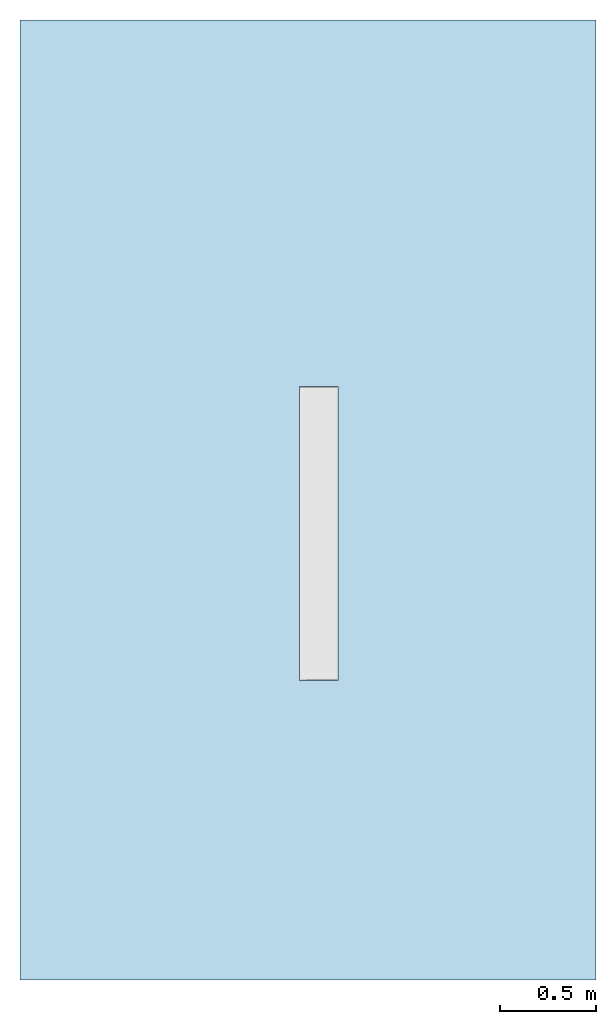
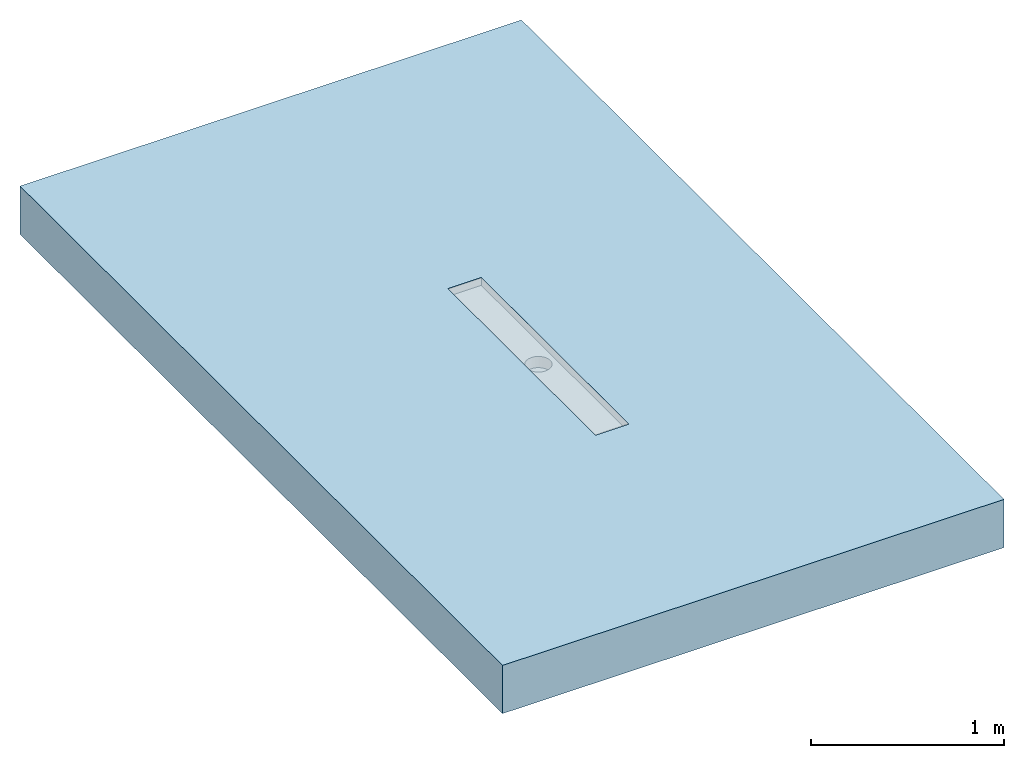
# One storey, incomplete: 1 slab, 1 opening.
"""IFC2X3 building model written with IfcOpenShell, lengths in millimetres."""

from ifc_helpers import new_model, entity, si_unit, converted_unit, derived_unit, direction, frame, frame_2d, origin, place, context, subcontext, project, spatial, rectangle, extrude, faceted_brep, material, layer, layer_set, layer_usage, element, save


model = new_model("IFC2X3")

# Units and contexts
model_context = context("Model", 3, precision=1e-05, world=origin(), true_north=direction((2.0, 6.12303176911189e-17, 1.0)))
context_of_model = context(None, 3, precision=1e-05, world=origin(), true_north=direction((2.0, 6.12303176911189e-17, 1.0)))
body_context = subcontext(model_context, "Body", "Model", "MODEL_VIEW")
ifc_project = project(units=[si_unit("LENGTHUNIT", "METRE", prefix="MILLI"), converted_unit("AREAUNIT", "SQUARE FOOT", entity("IfcRatioMeasure", 0.09290304), si_unit("AREAUNIT", "SQUARE_METRE"), dimensions=[2, 0, 0, 0, 0, 0, 0]), converted_unit("VOLUMEUNIT", "CUBIC FOOT", entity("IfcRatioMeasure", 0.028316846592), si_unit("VOLUMEUNIT", "CUBIC_METRE"), dimensions=[3, 0, 0, 0, 0, 0, 0]), converted_unit("PLANEANGLEUNIT", "DEGREE", entity("IfcRatioMeasure", 0.0174532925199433), si_unit("PLANEANGLEUNIT", "RADIAN"), dimensions=[0, 0, 0, 0, 0, 0, 0]), si_unit("MASSUNIT", "GRAM", prefix="KILO"), si_unit("TIMEUNIT", "SECOND"), si_unit("THERMODYNAMICTEMPERATUREUNIT", "KELVIN"), derived_unit("THERMALTRANSMITTANCEUNIT", [(si_unit("MASSUNIT", "GRAM", prefix="KILO"), 1), (si_unit("THERMODYNAMICTEMPERATUREUNIT", "KELVIN"), -1), (si_unit("TIMEUNIT", "SECOND"), -3)]), derived_unit("VOLUMETRICFLOWRATEUNIT", [(si_unit("LENGTHUNIT", "METRE"), 3), (si_unit("TIMEUNIT", "SECOND"), -1)]), si_unit("POWERUNIT", "WATT")], contexts=[model_context, context_of_model])

# Site, building, storey
site_placement = place(None, origin())
site = spatial("IfcSite", under=ifc_project, at=site_placement, Name="Default", CompositionType="ELEMENT")
building_placement = place(site_placement, origin())
building = spatial("IfcBuilding", under=site, at=building_placement, CompositionType="ELEMENT")
storey_placement = place(building_placement, origin())
storey = spatial("IfcBuildingStorey", under=building, at=storey_placement, Name="Level 1", CompositionType="ELEMENT", Elevation=0.0)

# Slab, opening
ifc_material = material(Name="Default Floor")
ifc_layer = layer(ifc_material, 304.8)
ifc_layer_set = layer_set([ifc_layer], Name="Floor:Generic - 12\"")
ifc_layer_usage = layer_usage(ifc_layer_set, "AXIS3", "POSITIVE", 0.0)
slab_placement = place(storey_placement, frame((-2592.42688678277, 381.838531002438, -304.8)))
slab = element("IfcSlab", 1, at=slab_placement, inside=storey, material=ifc_layer_usage, Name="Floor:Generic - 12\"", ObjectType="Floor:Generic - 12\"", PredefinedType="FLOOR", context=body_context, shape_type="SweptSolid", body=[
    extrude(rectangle(XDim=5000.0, YDim=3000.0, at=frame_2d((0.0, 0.0), x_axis=(0.0, -1.0))), frame((1500.0, 2500.0, 304.8), z_axis=(0.0, 0.0, -1.0), x_axis=(-1.0, 0.0, 0.0)), (0.0, 0.0, 1.0), 304.8),
])
opening_placement = place(slab_placement, frame((1456.83690377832, 1559.84639290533, 184.151793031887)))
element("IfcOpeningElement", 2, at=opening_placement, cuts=slab, ObjectType="Recess", context=body_context, shape_type="Brep", body=[
    faceted_brep([(200.0, 0.0, 70.6482069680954), (200.0, 0.0, 120.648206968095), (0.0, 0.0, 70.648206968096), (0.0, 0.0, 120.648206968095), (0.0, 1530.0, 70.648206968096), (0.0, 1530.0, 120.648206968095), (200.0, 1530.0, 120.648206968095), (200.0, 1530.0, 70.6482069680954), (64.4999999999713, 703.512196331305, 70.6482069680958), (81.6238477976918, 696.419266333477, 70.6482069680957), (49.7954185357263, 714.795418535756, 70.6482069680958), (100.0, 694.0, 70.6482069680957), (29.0, 765.0, 70.6482069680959), (31.4192663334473, 746.623847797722, 70.6482069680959), (38.5121963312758, 729.5, 70.6482069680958), (118.37615220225, 696.419266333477, 70.6482069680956), (135.499999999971, 703.512196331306, 70.6482069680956), (150.204581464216, 714.795418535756, 70.6482069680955), (161.487803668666, 729.500000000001, 70.6482069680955), (168.580733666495, 746.623847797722, 70.6482069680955), (171.0, 765.0, 70.6482069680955), (38.5121963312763, 800.500000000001, 70.6482069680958), (31.4192663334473, 783.37615220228, 70.6482069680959), (49.7954185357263, 815.204581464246, 70.6482069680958), (64.4999999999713, 826.487803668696, 70.6482069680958), (81.6238477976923, 833.580733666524, 70.6482069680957), (100.0, 836.0, 70.6482069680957), (168.580733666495, 783.376152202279, 70.6482069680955), (161.487803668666, 800.5, 70.6482069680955), (135.499999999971, 826.487803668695, 70.6482069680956), (118.37615220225, 833.580733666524, 70.6482069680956), (150.204581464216, 815.204581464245, 70.6482069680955), (81.6238477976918, 696.419266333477, 0.0), (64.4999999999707, 703.512196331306, 0.0), (49.7954185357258, 714.795418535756, 0.0), (100.0, 694.0, 0.0), (31.4192663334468, 783.37615220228, 0.0), (38.5121963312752, 729.500000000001, 0.0), (31.4192663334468, 746.623847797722, 0.0), (81.6238477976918, 833.580733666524, 0.0), (118.37615220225, 696.419266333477, 0.0), (150.204581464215, 714.795418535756, 0.0), (135.49999999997, 703.512196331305, 0.0), (168.580733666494, 746.623847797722, 0.0), (161.487803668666, 729.500000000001, 0.0), (161.487803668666, 800.5, 0.0), (29.0, 765.0, 0.0), (38.5121963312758, 800.5, 0.0), (49.7954185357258, 815.204581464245, 0.0), (100.0, 836.0, 0.0), (64.4999999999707, 826.487803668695, 0.0), (135.499999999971, 826.487803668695, 0.0), (168.580733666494, 783.376152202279, 0.0), (171.0, 765.0, 0.0), (150.204581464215, 815.204581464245, 0.0), (118.37615220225, 833.580733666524, 0.0)], [[[0, 1, 2]], [[3, 2, 1]], [[4, 5, 6]], [[6, 7, 4]], [[3, 1, 5]], [[6, 5, 1]], [[2, 3, 4]], [[5, 4, 3]], [[1, 0, 6]], [[7, 6, 0]], [[2, 8, 9]], [[8, 2, 10]], [[2, 9, 11]], [[12, 13, 2]], [[14, 10, 2]], [[13, 14, 2]], [[2, 4, 12]], [[0, 11, 15]], [[11, 0, 2]], [[0, 15, 16]], [[16, 17, 0]], [[18, 19, 0]], [[17, 18, 0]], [[0, 19, 20]], [[21, 22, 4]], [[23, 21, 4]], [[24, 4, 25]], [[4, 24, 23]], [[26, 25, 4]], [[4, 7, 26]], [[22, 12, 4]], [[27, 28, 7]], [[20, 27, 7]], [[29, 30, 7]], [[31, 7, 28]], [[7, 31, 29]], [[30, 26, 7]], [[20, 7, 0]], [[32, 33, 34]], [[35, 32, 34]], [[36, 37, 38]], [[39, 35, 34]], [[37, 39, 34]], [[40, 41, 42]], [[39, 40, 35]], [[41, 43, 44]], [[45, 41, 40]], [[45, 43, 41]], [[36, 38, 46]], [[36, 47, 48]], [[48, 39, 37]], [[49, 40, 39]], [[39, 48, 50]], [[49, 51, 40]], [[43, 52, 53]], [[45, 52, 43]], [[45, 51, 54]], [[40, 51, 45]], [[55, 51, 49]], [[36, 48, 37]], [[28, 45, 54]], [[29, 51, 55]], [[54, 51, 31]], [[30, 55, 49]], [[20, 52, 27]], [[52, 20, 53]], [[27, 52, 28]], [[52, 45, 28]], [[54, 31, 28]], [[29, 31, 51]], [[55, 30, 29]], [[49, 26, 30]], [[25, 39, 50]], [[48, 24, 50]], [[21, 47, 36]], [[48, 47, 23]], [[22, 36, 46]], [[39, 25, 26]], [[50, 24, 25]], [[48, 23, 24]], [[47, 21, 23]], [[22, 21, 36]], [[46, 12, 22]], [[39, 26, 49]], [[38, 13, 46]], [[37, 14, 38]], [[32, 35, 9]], [[34, 10, 37]], [[38, 14, 13]], [[13, 12, 46]], [[8, 33, 9]], [[8, 10, 34]], [[33, 32, 9]], [[10, 14, 37]], [[34, 33, 8]], [[35, 11, 9]], [[15, 40, 42]], [[41, 16, 42]], [[18, 44, 43]], [[41, 44, 17]], [[19, 43, 53]], [[40, 15, 11]], [[42, 16, 15]], [[41, 17, 16]], [[44, 18, 17]], [[19, 18, 43]], [[53, 20, 19]], [[40, 11, 35]]]),
])

save(model, "model.ifc")
